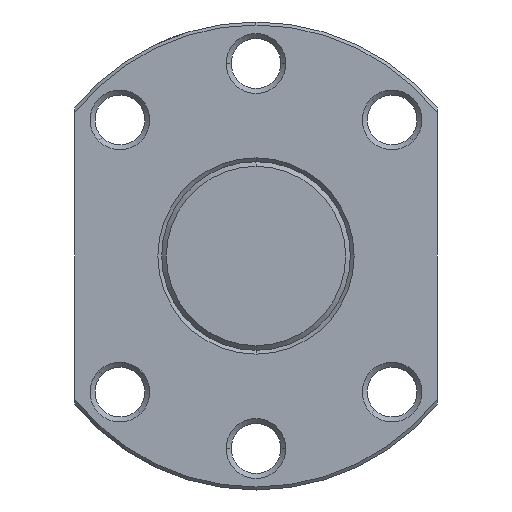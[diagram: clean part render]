
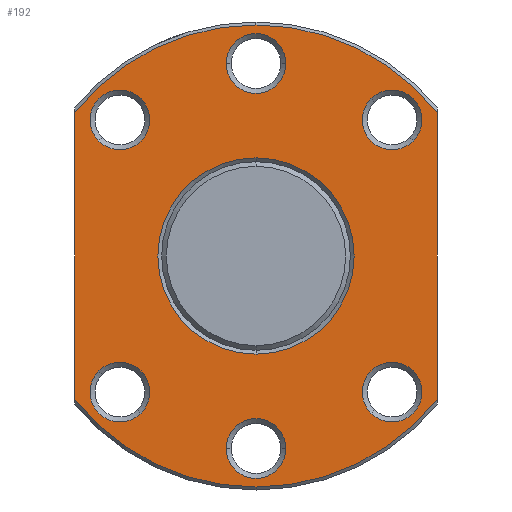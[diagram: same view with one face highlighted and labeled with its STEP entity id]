
A CAD part, left-side view. The second image highlights one B-rep face of the part: STEP entity #192.
In plain terms, the highlighted planar face has unit normal (-1, 0, 0).
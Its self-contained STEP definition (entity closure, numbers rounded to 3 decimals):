
#192=ADVANCED_FACE('',(#348,#349,#350,#351,#352,#353,#354,#355),#356,.T.);
#348=FACE_BOUND('',#521,.T.);
#349=FACE_OUTER_BOUND('',#522,.T.);
#350=FACE_BOUND('',#523,.T.);
#351=FACE_BOUND('',#524,.T.);
#352=FACE_BOUND('',#525,.T.);
#353=FACE_BOUND('',#526,.T.);
#354=FACE_BOUND('',#527,.T.);
#355=FACE_BOUND('',#528,.T.);
#356=PLANE('',#529);
#521=EDGE_LOOP('',(#1051,#1052));
#522=EDGE_LOOP('',(#1053,#1054,#1055,#1056,#1057,#1058));
#523=EDGE_LOOP('',(#1059,#1060));
#524=EDGE_LOOP('',(#1061,#1062));
#525=EDGE_LOOP('',(#1063,#1064));
#526=EDGE_LOOP('',(#1065,#1066));
#527=EDGE_LOOP('',(#1067,#1068));
#528=EDGE_LOOP('',(#1069,#1070));
#529=AXIS2_PLACEMENT_3D('',#1071,#1072,#1073);
#1051=ORIENTED_EDGE('',*,*,#1256,.T.);
#1052=ORIENTED_EDGE('',*,*,#1236,.T.);
#1053=ORIENTED_EDGE('',*,*,#1257,.T.);
#1054=ORIENTED_EDGE('',*,*,#1297,.F.);
#1055=ORIENTED_EDGE('',*,*,#1164,.F.);
#1056=ORIENTED_EDGE('',*,*,#1278,.T.);
#1057=ORIENTED_EDGE('',*,*,#1226,.F.);
#1058=ORIENTED_EDGE('',*,*,#1277,.F.);
#1059=ORIENTED_EDGE('',*,*,#1281,.T.);
#1060=ORIENTED_EDGE('',*,*,#1216,.T.);
#1061=ORIENTED_EDGE('',*,*,#1284,.T.);
#1062=ORIENTED_EDGE('',*,*,#1206,.T.);
#1063=ORIENTED_EDGE('',*,*,#1287,.T.);
#1064=ORIENTED_EDGE('',*,*,#1196,.T.);
#1065=ORIENTED_EDGE('',*,*,#1290,.T.);
#1066=ORIENTED_EDGE('',*,*,#1186,.T.);
#1067=ORIENTED_EDGE('',*,*,#1293,.T.);
#1068=ORIENTED_EDGE('',*,*,#1176,.T.);
#1069=ORIENTED_EDGE('',*,*,#1296,.T.);
#1070=ORIENTED_EDGE('',*,*,#1166,.T.);
#1071=CARTESIAN_POINT('',(25.0,0.0,15.305));
#1072=DIRECTION('',(-1.0,0.0,0.));
#1073=DIRECTION('',(0.,0.0,-1.0));
#1164=EDGE_CURVE('',#1362,#1360,#1364,.T.);
#1166=EDGE_CURVE('',#1368,#1365,#1369,.T.);
#1176=EDGE_CURVE('',#1386,#1383,#1387,.T.);
#1186=EDGE_CURVE('',#1404,#1401,#1405,.T.);
#1196=EDGE_CURVE('',#1422,#1419,#1423,.T.);
#1206=EDGE_CURVE('',#1440,#1437,#1441,.T.);
#1216=EDGE_CURVE('',#1458,#1455,#1459,.T.);
#1226=EDGE_CURVE('',#1473,#1476,#1477,.T.);
#1236=EDGE_CURVE('',#1494,#1491,#1495,.T.);
#1256=EDGE_CURVE('',#1491,#1494,#1525,.T.);
#1257=EDGE_CURVE('',#1526,#1527,#1528,.T.);
#1277=EDGE_CURVE('',#1526,#1473,#1554,.T.);
#1278=EDGE_CURVE('',#1362,#1476,#1555,.T.);
#1281=EDGE_CURVE('',#1455,#1458,#1558,.T.);
#1284=EDGE_CURVE('',#1437,#1440,#1561,.T.);
#1287=EDGE_CURVE('',#1419,#1422,#1564,.T.);
#1290=EDGE_CURVE('',#1401,#1404,#1567,.T.);
#1293=EDGE_CURVE('',#1383,#1386,#1570,.T.);
#1296=EDGE_CURVE('',#1365,#1368,#1573,.T.);
#1297=EDGE_CURVE('',#1360,#1527,#1574,.T.);
#1360=VERTEX_POINT('',#1661);
#1362=VERTEX_POINT('',#1664);
#1364=CIRCLE('',#1675,30.61);
#1365=VERTEX_POINT('',#1676);
#1368=VERTEX_POINT('',#1680);
#1369=CIRCLE('',#1681,3.96);
#1383=VERTEX_POINT('',#1700);
#1386=VERTEX_POINT('',#1704);
#1387=CIRCLE('',#1705,3.96);
#1401=VERTEX_POINT('',#1724);
#1404=VERTEX_POINT('',#1728);
#1405=CIRCLE('',#1729,3.96);
#1419=VERTEX_POINT('',#1748);
#1422=VERTEX_POINT('',#1752);
#1423=CIRCLE('',#1753,3.96);
#1437=VERTEX_POINT('',#1772);
#1440=VERTEX_POINT('',#1776);
#1441=CIRCLE('',#1777,3.96);
#1455=VERTEX_POINT('',#1796);
#1458=VERTEX_POINT('',#1800);
#1459=CIRCLE('',#1801,3.96);
#1473=VERTEX_POINT('',#1820);
#1476=VERTEX_POINT('',#1824);
#1477=CIRCLE('',#1825,30.61);
#1491=VERTEX_POINT('',#1860);
#1494=VERTEX_POINT('',#1864);
#1495=CIRCLE('',#1865,13.0);
#1525=CIRCLE('',#1971,13.0);
#1526=VERTEX_POINT('',#1972);
#1527=VERTEX_POINT('',#1973);
#1528=LINE('',#1974,#1975);
#1554=CIRCLE('',#2041,30.61);
#1555=LINE('',#2042,#2043);
#1558=CIRCLE('',#2046,3.96);
#1561=CIRCLE('',#2049,3.96);
#1564=CIRCLE('',#2052,3.96);
#1567=CIRCLE('',#2055,3.96);
#1570=CIRCLE('',#2058,3.96);
#1573=CIRCLE('',#2061,3.96);
#1574=CIRCLE('',#2062,30.61);
#1661=CARTESIAN_POINT('',(25.0,0.,-30.61));
#1664=CARTESIAN_POINT('',(25.0,-24.0,-18.999));
#1675=AXIS2_PLACEMENT_3D('',#2133,#2134,#2135);
#1676=CARTESIAN_POINT('',(25.0,-15.231,20.831));
#1680=CARTESIAN_POINT('',(25.0,-20.831,15.231));
#1681=AXIS2_PLACEMENT_3D('',#2137,#2138,#2139);
#1700=CARTESIAN_POINT('',(25.0,3.96,25.5));
#1704=CARTESIAN_POINT('',(25.0,-3.96,25.5));
#1705=AXIS2_PLACEMENT_3D('',#2155,#2156,#2157);
#1724=CARTESIAN_POINT('',(25.0,20.831,15.231));
#1728=CARTESIAN_POINT('',(25.0,15.231,20.831));
#1729=AXIS2_PLACEMENT_3D('',#2173,#2174,#2175);
#1748=CARTESIAN_POINT('',(25.0,15.231,-20.831));
#1752=CARTESIAN_POINT('',(25.0,20.831,-15.231));
#1753=AXIS2_PLACEMENT_3D('',#2191,#2192,#2193);
#1772=CARTESIAN_POINT('',(25.0,-3.96,-25.5));
#1776=CARTESIAN_POINT('',(25.0,3.96,-25.5));
#1777=AXIS2_PLACEMENT_3D('',#2209,#2210,#2211);
#1796=CARTESIAN_POINT('',(25.0,-20.831,-15.231));
#1800=CARTESIAN_POINT('',(25.0,-15.231,-20.831));
#1801=AXIS2_PLACEMENT_3D('',#2227,#2228,#2229);
#1820=CARTESIAN_POINT('',(25.0,0.,30.61));
#1824=CARTESIAN_POINT('',(25.0,-24.0,18.999));
#1825=AXIS2_PLACEMENT_3D('',#2245,#2246,#2247);
#1860=CARTESIAN_POINT('',(25.0,0.0,13.0));
#1864=CARTESIAN_POINT('',(25.0,0.,-13.0));
#1865=AXIS2_PLACEMENT_3D('',#2261,#2262,#2263);
#1971=AXIS2_PLACEMENT_3D('',#2297,#2298,#2299);
#1972=CARTESIAN_POINT('',(25.0,24.0,18.999));
#1973=CARTESIAN_POINT('',(25.0,24.0,-18.999));
#1974=CARTESIAN_POINT('',(25.0,24.0,7.653));
#1975=VECTOR('',#2300,1.0);
#2041=AXIS2_PLACEMENT_3D('',#2338,#2339,#2340);
#2042=CARTESIAN_POINT('',(25.0,-24.0,7.653));
#2043=VECTOR('',#2341,1.0);
#2046=AXIS2_PLACEMENT_3D('',#2348,#2349,#2350);
#2049=AXIS2_PLACEMENT_3D('',#2357,#2358,#2359);
#2052=AXIS2_PLACEMENT_3D('',#2366,#2367,#2368);
#2055=AXIS2_PLACEMENT_3D('',#2375,#2376,#2377);
#2058=AXIS2_PLACEMENT_3D('',#2384,#2385,#2386);
#2061=AXIS2_PLACEMENT_3D('',#2393,#2394,#2395);
#2062=AXIS2_PLACEMENT_3D('',#2396,#2397,#2398);
#2133=CARTESIAN_POINT('',(25.0,0.0,0.0));
#2134=DIRECTION('',(1.0,0.0,-0.0));
#2135=DIRECTION('',(0.0,0.0,1.0));
#2137=CARTESIAN_POINT('',(25.0,-18.031,18.031));
#2138=DIRECTION('',(1.0,0.0,0.));
#2139=DIRECTION('',(0.,0.707,0.707));
#2155=CARTESIAN_POINT('',(25.0,0.0,25.5));
#2156=DIRECTION('',(1.0,0.0,0.));
#2157=DIRECTION('',(0.0,1.0,0.0));
#2173=CARTESIAN_POINT('',(25.0,18.031,18.031));
#2174=DIRECTION('',(1.0,0.0,0.));
#2175=DIRECTION('',(0.,0.707,-0.707));
#2191=CARTESIAN_POINT('',(25.0,18.031,-18.031));
#2192=DIRECTION('',(1.0,0.0,0.));
#2193=DIRECTION('',(0.,-0.707,-0.707));
#2209=CARTESIAN_POINT('',(25.0,0.0,-25.5));
#2210=DIRECTION('',(1.0,0.0,0.));
#2211=DIRECTION('',(0.0,-1.0,0.0));
#2227=CARTESIAN_POINT('',(25.0,-18.031,-18.031));
#2228=DIRECTION('',(1.0,0.0,0.));
#2229=DIRECTION('',(0.,-0.707,0.707));
#2245=CARTESIAN_POINT('',(25.0,0.0,0.0));
#2246=DIRECTION('',(1.0,0.0,-0.0));
#2247=DIRECTION('',(0.0,0.0,1.0));
#2261=CARTESIAN_POINT('',(25.0,0.0,0.0));
#2262=DIRECTION('',(1.0,0.0,0.));
#2263=DIRECTION('',(0.,0.0,1.0));
#2297=CARTESIAN_POINT('',(25.0,0.0,0.0));
#2298=DIRECTION('',(1.0,0.0,0.));
#2299=DIRECTION('',(0.,0.0,1.0));
#2300=DIRECTION('',(0.,0.0,-1.0));
#2338=CARTESIAN_POINT('',(25.0,0.0,0.0));
#2339=DIRECTION('',(1.0,0.0,-0.0));
#2340=DIRECTION('',(0.0,0.0,1.0));
#2341=DIRECTION('',(0.,0.0,1.0));
#2348=CARTESIAN_POINT('',(25.0,-18.031,-18.031));
#2349=DIRECTION('',(1.0,0.0,0.));
#2350=DIRECTION('',(0.,-0.707,0.707));
#2357=CARTESIAN_POINT('',(25.0,0.0,-25.5));
#2358=DIRECTION('',(1.0,0.0,0.));
#2359=DIRECTION('',(0.0,-1.0,0.0));
#2366=CARTESIAN_POINT('',(25.0,18.031,-18.031));
#2367=DIRECTION('',(1.0,0.0,0.));
#2368=DIRECTION('',(0.,-0.707,-0.707));
#2375=CARTESIAN_POINT('',(25.0,18.031,18.031));
#2376=DIRECTION('',(1.0,0.0,0.));
#2377=DIRECTION('',(0.,0.707,-0.707));
#2384=CARTESIAN_POINT('',(25.0,0.0,25.5));
#2385=DIRECTION('',(1.0,0.0,0.));
#2386=DIRECTION('',(0.0,1.0,0.0));
#2393=CARTESIAN_POINT('',(25.0,-18.031,18.031));
#2394=DIRECTION('',(1.0,0.0,0.));
#2395=DIRECTION('',(0.,0.707,0.707));
#2396=CARTESIAN_POINT('',(25.0,0.0,0.0));
#2397=DIRECTION('',(1.0,0.0,-0.0));
#2398=DIRECTION('',(0.0,0.0,1.0));
